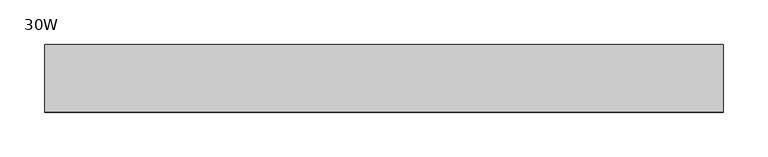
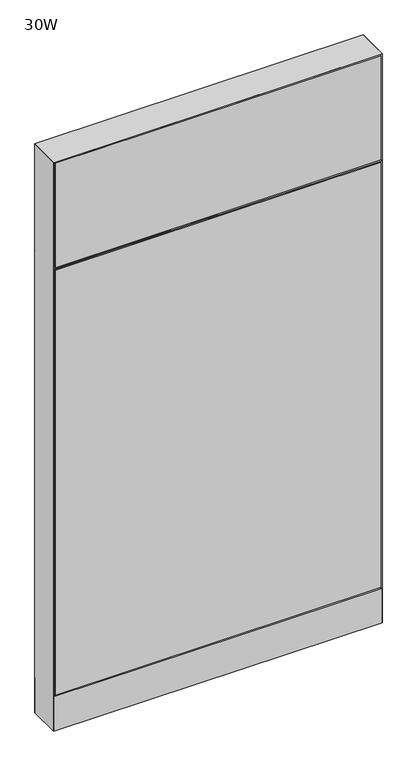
"""IFC4 building model written with IfcOpenShell, lengths in millimetres: furniture geometry, Steelcase - Montage - Frame - 55H - Enhanced Monolithic - Base Cavity : 30W."""

from ifc_helpers import new_model, si_unit, point, frame, frame_2d, origin, origin_with_axes, place, context, project, spatial, polyline, circle_curve, trimmed, segment, composite_curve, outline, extrude, faceted_brep, source, transform, mapped, element, save


def furniture_30w_2213feb4(model_context):
    return source(origin(), model_context, "Body", "SolidModel", [
        faceted_brep([(762.0, 38.1026297, 1136.65), (0.0, 38.1026297, 1136.65), (6.3499953, 31.7526299, 1142.9999997), (755.6500083, 31.7526299, 1142.9999997), (755.6500083, 31.7526299, 1130.3000003), (6.3499953, 31.7526299, 1130.3000003)], [[[0, 1, 2, 3]], [[1, 0, 4, 5]], [[3, 2, 5, 4]], [[0, 3, 4]], [[2, 1, 5]]]),
        extrude(outline(polyline([(758.825, 31.7500194), (3.175, 31.7500194), (3.175, 38.1000194), (758.825, 38.1000194), (758.825, 31.7500194)])), frame((0.0, 0.0, 1139.825), z_axis=(0.0, 0.0, 1.0), x_axis=(1.0, 0.0, 0.0)), (0.0, 0.0, 1.0), 255.5875),
        extrude(outline(polyline([(758.825, 31.7500194), (3.175, 31.7500194), (3.175, 38.1000194), (758.825, 38.1000194), (758.825, 31.7500194)])), frame((0.0, 0.0, 92.075), z_axis=(0.0, 0.0, 1.0), x_axis=(1.0, 0.0, 0.0)), (0.0, 0.0, 1.0), 1041.4),
        faceted_brep([(-5.4e-06, 38.102627, 1136.6500027), (6.3499917, 31.7526299, 1142.9999997), (755.6500047, 31.7526299, 1142.9999997), (762.0, 38.1026253, 1136.6500044), (755.6500047, 31.7526299, 1130.3000003), (6.3499917, 31.7526299, 1130.3000003)], [[[0, 1, 2, 3]], [[3, 4, 5, 0]], [[1, 5, 4, 2]], [[0, 5, 1]], [[2, 4, 3]]]),
        extrude(outline(polyline([(3.175, 31.7500194), (3.175, 38.1000194), (758.825, 38.1000194), (758.825, 31.7500194), (3.175, 31.7500194)])), frame((0.0, 0.0, 1139.825), z_axis=(0.0, 0.0, 1.0), x_axis=(1.0, 0.0, 0.0)), (0.0, 0.0, 1.0), 255.5875),
        extrude(outline(polyline([(3.175, 31.7500194), (3.175, 38.1000194), (758.825, 38.1000194), (758.825, 31.7500194), (3.175, 31.7500194)])), frame((0.0, 0.0, 92.075), z_axis=(0.0, 0.0, 1.0), x_axis=(1.0, 0.0, 0.0)), (0.0, 0.0, 1.0), 1041.4),
        faceted_brep([(6.3499917, -31.7526299, 1142.9999997), (755.6500047, -31.7526299, 1142.9999997), (755.6500047, -31.7526299, 1130.3000003), (6.3499917, -31.7526299, 1130.3000003), (0.0, -38.1026297, 1136.65), (762.0, -38.1026297, 1136.65)], [[[0, 1, 2, 3]], [[4, 5, 1, 0]], [[5, 4, 3, 2]], [[4, 0, 3]], [[1, 5, 2]]]),
        extrude(outline(polyline([(3.175, -31.7500194), (758.825, -31.7500194), (758.825, -38.1000194), (3.175, -38.1000194), (3.175, -31.7500194)])), frame((0.0, 0.0, 1139.825), z_axis=(0.0, 0.0, 1.0), x_axis=(1.0, 0.0, 0.0)), (0.0, 0.0, 1.0), 255.5875),
        extrude(outline(polyline([(3.175, -31.7500194), (758.825, -31.7500194), (758.825, -38.1000194), (3.175, -38.1000194), (3.175, -31.7500194)])), frame((0.0, 0.0, 92.075), z_axis=(0.0, 0.0, 1.0), x_axis=(1.0, 0.0, 0.0)), (0.0, 0.0, 1.0), 1041.4),
        extrude(outline(polyline([(6.350003, -31.7499985), (755.649997, -31.7499985), (762.0, -38.1000015), (0.0, -38.1000015), (6.350003, -31.7499985)])), frame((0.0, 0.0, 4.064), z_axis=(0.0, 0.0, 1.0), x_axis=(1.0, 0.0, 0.0)), (0.0, 0.0, 1.0), 84.835997),
        extrude(outline(polyline([(6.3500002, 31.7500017), (0.0, 38.1000015), (762.0, 38.1000015), (755.6500002, 31.7500017), (6.3500002, 31.7500017)])), frame((0.0, 0.0, 4.064), z_axis=(0.0, 0.0, 1.0), x_axis=(1.0, 0.0, 0.0)), (0.0, 0.0, 1.0), 84.835997),
        faceted_brep([(762.0, -38.1000015, 1398.5875), (0.0, -38.1000015, 1398.5875), (6.3500484, -31.749953, 1392.2374516), (755.6499516, -31.749953, 1392.2374516), (6.3500484, 31.749953, 1392.2374516), (755.6499516, 31.749953, 1392.2374516), (0.0, 38.1000015, 1398.5875), (762.0, 38.1000015, 1398.5875)], [[[0, 1, 2, 3]], [[3, 2, 4, 5]], [[6, 7, 5, 4]], [[1, 0, 7, 6]], [[2, 1, 6, 4]], [[0, 3, 5, 7]]]),
        extrude(outline(composite_curve([segment(trimmed(circle_curve(frame_2d((44.45, 0.0)), 15.24), [point((29.21, 0.0))], [point((59.69, 0.0))], False, "CARTESIAN"), True, "CONTINUOUS"), segment(trimmed(circle_curve(frame_2d((44.45, 0.0)), 15.24), [point((59.69, 0.0))], [point((29.21, 0.0))], False, "CARTESIAN"), True, "CONTINUOUS")], self_intersect=False)), origin_with_axes(), (0.0, 0.0, 1.0), 4.064),
        extrude(outline(composite_curve([segment(trimmed(circle_curve(frame_2d((717.55, 0.0)), 15.24), [point((702.31, 0.0))], [point((732.79, 0.0))], False, "CARTESIAN"), True, "CONTINUOUS"), segment(trimmed(circle_curve(frame_2d((717.55, 0.0)), 15.24), [point((732.79, 0.0))], [point((702.31, 0.0))], False, "CARTESIAN"), True, "CONTINUOUS")], self_intersect=False)), origin_with_axes(), (0.0, 0.0, 1.0), 4.064),
        faceted_brep([(762.0, -38.1000106, 4.064), (762.0, 38.1000015, 4.064), (762.0, 38.1000015, 1398.5875), (762.0, -38.1000106, 1398.5874637), (0.0, 38.1000015, 4.064), (0.0, -38.1000015, 4.064), (0.0, -38.1000015, 1398.5875), (0.0, 38.1000015, 1398.5875), (755.6499879, 31.7500017, 606.425), (6.35, 31.7500017, 606.425), (6.3499998, 31.7500017, 619.125), (755.6499879, 31.7500017, 619.125), (6.35, -31.7499985, 619.125), (755.6499879, -31.7499985, 619.125), (6.350003, -31.7499985, 606.425), (755.6499879, -31.7499985, 606.425), (6.35, 31.7500015, 4.064), (6.35, -31.7500015, 4.064), (755.6499879, 31.7499894, 4.064), (755.6499879, -31.7499985, 4.064), (6.35, 31.7500015, 1392.2375), (6.35, -31.7500015, 1392.2375), (755.6499879, -31.7499985, 1392.2374516), (755.6499879, 31.7499895, 1392.2374516)], [[[0, 1, 2, 3]], [[4, 5, 6, 7]], [[8, 9, 10, 11]], [[11, 10, 12, 13]], [[13, 12, 14, 15]], [[9, 8, 15, 14]], [[16, 17, 5, 4]], [[18, 1, 0, 19]], [[16, 4, 7, 20, 10, 9]], [[5, 17, 14, 12, 21, 6]], [[12, 10, 20, 21]], [[17, 16, 9, 14]], [[11, 13, 22, 23]], [[18, 19, 15, 8]], [[19, 0, 3, 22, 13, 15]], [[1, 18, 8, 11, 23, 2]], [[7, 6, 21, 20]], [[3, 2, 23, 22]]]),
    ])


if __name__ == "__main__":
    model = new_model("IFC4")
    model_context = context("Model", 3, world=origin())
    ifc_project = project(units=[si_unit("LENGTHUNIT", "METRE", prefix="MILLI")], contexts=[model_context])
    site = spatial("IfcSite", under=ifc_project)
    building = spatial("IfcBuilding", under=site)
    placement = place(None, origin())
    furniture_30w_shape = furniture_30w_2213feb4(model_context)
    element("IfcFurniture", 1, ObjectType="Steelcase - Montage - Frame - 55H - Enhanced Monolithic - Base Cavity : 30W", at=placement, inside=building, context=model_context, shape_type="MappedRepresentation", body=[
        mapped(furniture_30w_shape, transform((0.0, 0.0, 0.0), x_axis=(1.0, 0.0, 0.0), y_axis=(0.0, 1.0, 0.0), z_axis=(0.0, 0.0, 1.0))),
    ])
    save(model, "model.ifc")
